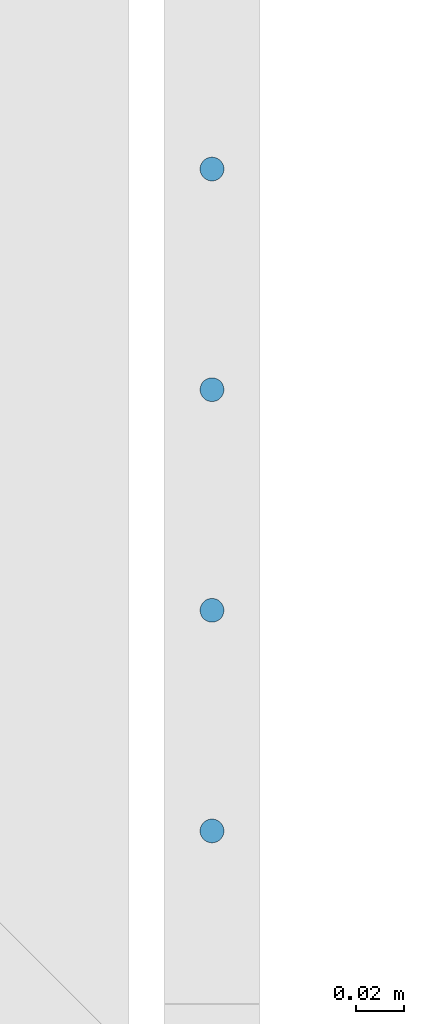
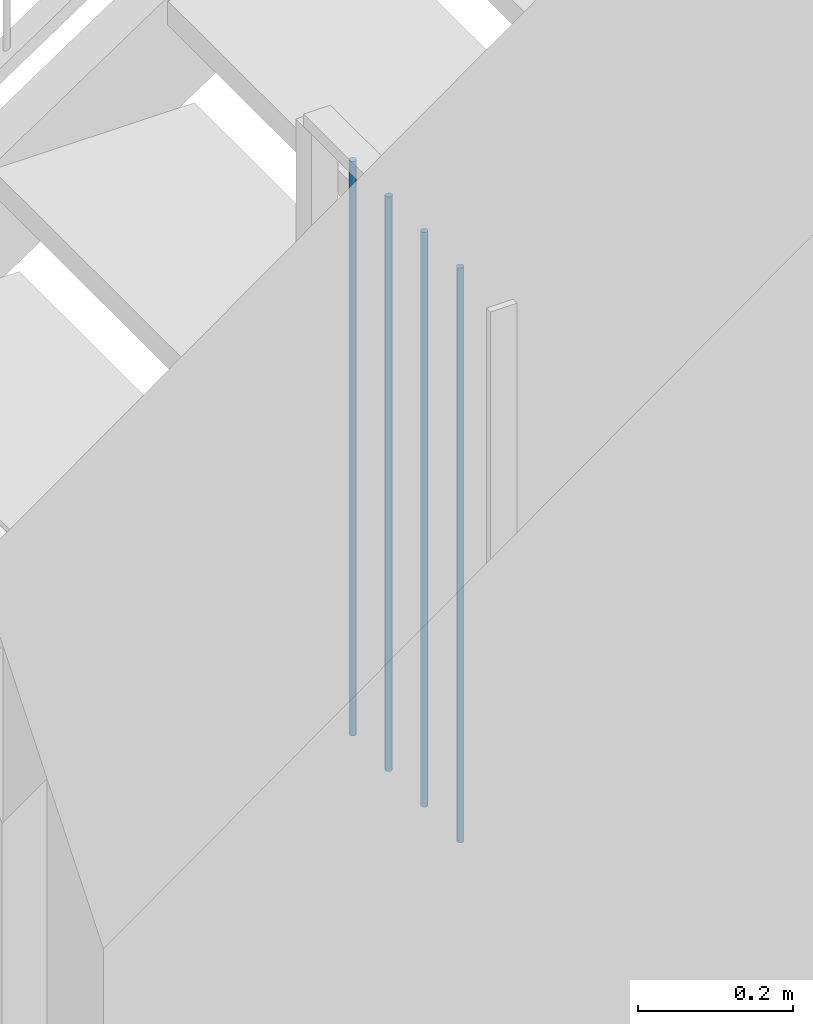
# One storey, part 4 of 117: 4 members, 1 element without a shape of its own.
"""IFC2X3 building model written with IfcOpenShell, lengths in millimetres."""

from ifc_helpers import new_model, entity, si_unit, converted_unit, derived_unit, money_unit, direction, frame, origin_with_axes, place, context, subcontext, project, spatial, faceted_brep, source, transform, mapped, material, type_object, type_shapes, element, aggregate, save


model = new_model("IFC2X3")

# Units and contexts
model_context = context("Model", 3, precision=0.01, world=origin_with_axes(), true_north=direction((0.0, 1.0)))
body_context = subcontext(model_context, "Body", "Model", "MODEL_VIEW")
ifc_project = project(units=[si_unit("LENGTHUNIT", "METRE", prefix="MILLI"), si_unit("AREAUNIT", "SQUARE_METRE"), si_unit("VOLUMEUNIT", "CUBIC_METRE"), converted_unit("PLANEANGLEUNIT", "DEGREE", entity("IfcPlaneAngleMeasure", 0.0174532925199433), si_unit("PLANEANGLEUNIT", "RADIAN"), dimensions=[0, 0, 0, 0, 0, 0, 0]), money_unit("EUR"), converted_unit("TIMEUNIT", "Year", entity("IfcTimeMeasure", 31557600.0), si_unit("TIMEUNIT", "SECOND"), dimensions=[0, 0, 1, 0, 0, 0, 0]), si_unit("MASSUNIT", "GRAM", prefix="KILO"), si_unit("THERMODYNAMICTEMPERATUREUNIT", "DEGREE_CELSIUS"), si_unit("LUMINOUSINTENSITYUNIT", "LUMEN"), si_unit("ENERGYUNIT", "JOULE", prefix="MEGA"), derived_unit("THERMALCONDUCTANCEUNIT", [(si_unit("POWERUNIT", "WATT"), 1), (si_unit("LENGTHUNIT", "METRE"), -1), (si_unit("THERMODYNAMICTEMPERATUREUNIT", "KELVIN"), -1)]), derived_unit("SPECIFICHEATCAPACITYUNIT", [(si_unit("ENERGYUNIT", "JOULE"), 1), (si_unit("MASSUNIT", "GRAM", prefix="KILO"), -1), (si_unit("THERMODYNAMICTEMPERATUREUNIT", "KELVIN"), -1)]), derived_unit("MASSDENSITYUNIT", [(si_unit("MASSUNIT", "GRAM", prefix="KILO"), 1), (si_unit("VOLUMEUNIT", "CUBIC_METRE"), -1)])], contexts=[model_context])

# Site, building, storey
site_placement = place(None, origin_with_axes())
site = spatial("IfcSite", under=ifc_project, at=site_placement, Name="Site", CompositionType="ELEMENT")
building_placement = place(site_placement, origin_with_axes())
building = spatial("IfcBuilding", under=site, at=building_placement, Name="Naam gebouw", CompositionType="ELEMENT")
storey_placement = place(building_placement, frame((0.0, 0.0, 4150.0), z_axis=(0.0, 0.0, 1.0), x_axis=(1.0, 0.0, 0.0)))
storey = spatial("IfcBuildingStorey", under=building, at=storey_placement, Name="1e verdieping N", CompositionType="ELEMENT", Elevation=4150.0)

# Railing, members
railing_type = type_object("IfcRailingType", Name="Railing Type", PredefinedType="NOTDEFINED")
railing_placement = place(storey_placement, frame((56209.65277777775, 21185.9124251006, 0.0), z_axis=(0.0, 0.0, 1.0), x_axis=(1.0, 0.0, 0.0)))
railing = element("IfcRailing", 1, at=railing_placement, inside=storey, type_object=railing_type, Name="_Reling-x", PredefinedType="NOTDEFINED")
ifc_material = material(Name="Metaal - Staal C")
member_type = type_object("IfcMemberType", Name="IfcMember", PredefinedType="MEMBER")
shared_shape = source(origin_with_axes(), body_context, "Body", "Brep", [
    faceted_brep([(0.0, -5.0, 0.0), (0.8682408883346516, -4.92403876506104, 0.0), (0.868240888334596, -4.92403876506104, 907.5000000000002), (0.0, -5.0, 907.5000000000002), (-0.868240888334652, -4.92403876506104, 0.0), (-1.710100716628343, -4.698463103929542, 0.0), (-2.500000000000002, -4.330127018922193, 0.0), (-3.213938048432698, -3.830222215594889, 0.0), (-3.830222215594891, -3.213938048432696, 0.0), (-4.330127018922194, -2.5, 0.0), (-4.698463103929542, -1.710100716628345, 0.0), (-4.924038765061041, -0.86824088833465, 0.0), (-5.0, 0.0, 0.0), (-4.92403876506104, 0.8682408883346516, 0.0), (-4.698463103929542, 1.710100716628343, 0.0), (-4.330127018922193, 2.500000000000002, 0.0), (-3.83022221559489, 3.213938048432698, 0.0), (-3.213938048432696, 3.83022221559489, 0.0), (-2.5, 4.330127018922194, 0.0), (-1.710100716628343, 4.698463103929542, 0.0), (-0.8682408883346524, 4.92403876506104, 0.0), (0.0, 5.0, 0.0), (0.8682408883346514, 4.92403876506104, 0.0), (1.710100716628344, 4.698463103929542, 0.0), (2.5, 4.330127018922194, 0.0), (3.213938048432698, 3.83022221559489, 0.0), (3.83022221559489, 3.213938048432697, 0.0), (4.330127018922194, 2.499999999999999, 0.0), (4.698463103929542, 1.710100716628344, 0.0), (4.92403876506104, 0.8682408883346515, 0.0), (5.0, 0.0, 0.0), (4.92403876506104, -0.8682408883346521, 0.0), (4.698463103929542, -1.710100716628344, 0.0), (4.330127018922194, -2.5, 0.0), (3.83022221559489, -3.213938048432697, 0.0), (3.213938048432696, -3.83022221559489, 0.0), (2.5, -4.330127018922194, 0.0), (1.710100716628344, -4.698463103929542, 0.0), (1.710100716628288, -4.698463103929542, 907.5000000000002), (2.499999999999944, -4.330127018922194, 907.5000000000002), (3.213938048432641, -3.83022221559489, 907.5000000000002), (3.830222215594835, -3.213938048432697, 907.5000000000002), (4.330127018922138, -2.5, 907.5000000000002), (4.698463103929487, -1.710100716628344, 907.5000000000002), (4.924038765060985, -0.8682408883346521, 907.5000000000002), (4.999999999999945, 0.0, 907.5000000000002), (4.924038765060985, 0.8682408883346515, 907.5000000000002), (4.698463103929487, 1.710100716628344, 907.5000000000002), (4.330127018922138, 2.499999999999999, 907.5000000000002), (3.830222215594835, 3.213938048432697, 907.5000000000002), (3.213938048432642, 3.83022221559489, 907.5000000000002), (2.499999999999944, 4.330127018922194, 907.5000000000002), (1.710100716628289, 4.698463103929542, 907.5000000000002), (0.8682408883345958, 4.92403876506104, 907.5000000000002), (0.0, 5.0, 907.5000000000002), (-0.868240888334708, 4.92403876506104, 907.5000000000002), (-1.710100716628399, 4.698463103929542, 907.5000000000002), (-2.500000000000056, 4.330127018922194, 907.5000000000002), (-3.213938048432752, 3.83022221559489, 907.5000000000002), (-3.830222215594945, 3.213938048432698, 907.5000000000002), (-4.330127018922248, 2.500000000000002, 907.5000000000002), (-4.698463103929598, 1.710100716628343, 907.5000000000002), (-4.924038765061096, 0.8682408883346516, 907.5000000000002), (-5.000000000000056, 0.0, 907.5000000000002), (-4.924038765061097, -0.86824088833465, 907.5000000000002), (-4.698463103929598, -1.710100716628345, 907.5000000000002), (-4.330127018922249, -2.5, 907.5000000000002), (-3.830222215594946, -3.213938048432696, 907.5000000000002), (-3.213938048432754, -3.830222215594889, 907.5000000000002), (-2.500000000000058, -4.330127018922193, 907.5000000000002), (-1.710100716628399, -4.698463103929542, 907.5000000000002), (-0.8682408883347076, -4.92403876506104, 907.5000000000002)], [[[0, 1, 2, 3]], [[0, 4, 5, 6, 7, 8, 9, 10, 11, 12, 13, 14, 15, 16, 17, 18, 19, 20, 21, 22, 23, 24, 25, 26, 27, 28, 29, 30, 31, 32, 33, 34, 35, 36, 37, 1]], [[1, 37, 38, 2]], [[3, 2, 38, 39, 40, 41, 42, 43, 44, 45, 46, 47, 48, 49, 50, 51, 52, 53, 54, 55, 56, 57, 58, 59, 60, 61, 62, 63, 64, 65, 66, 67, 68, 69, 70, 71]], [[4, 0, 3, 71]], [[5, 4, 71, 70]], [[6, 5, 70, 69]], [[7, 6, 69, 68]], [[8, 7, 68, 67]], [[9, 8, 67, 66]], [[10, 9, 66, 65]], [[11, 10, 65, 64]], [[12, 11, 64, 63]], [[13, 12, 63, 62]], [[14, 13, 62, 61]], [[15, 14, 61, 60]], [[16, 15, 60, 59]], [[17, 16, 59, 58]], [[18, 17, 58, 57]], [[19, 18, 57, 56]], [[20, 19, 56, 55]], [[21, 20, 55, 54]], [[22, 21, 54, 53]], [[23, 22, 53, 52]], [[24, 23, 52, 51]], [[25, 24, 51, 50]], [[26, 25, 50, 49]], [[27, 26, 49, 48]], [[28, 27, 48, 47]], [[29, 28, 47, 46]], [[30, 29, 46, 45]], [[31, 30, 45, 44]], [[32, 31, 44, 43]], [[33, 32, 43, 42]], [[34, 33, 42, 41]], [[35, 34, 41, 40]], [[36, 35, 40, 39]], [[37, 36, 39, 38]]]),
])
type_shapes(member_type, [shared_shape])
member_1_placement = place(railing_placement, frame((24.99999999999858, -334.7729050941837, 69.9999999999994), z_axis=(0.0, 0.0, 1.0), x_axis=(1.0, 0.0, 0.0)))
member_1 = element("IfcMember", 2, at=member_1_placement, type_object=member_type, material=ifc_material, Name="_Spijlen-x", ObjectType="MEMBER", context=body_context, shape_type="MappedRepresentation", body=[
    mapped(shared_shape, transform((0.0, 0.0, 0.0))),
])
member_2_placement = place(railing_placement, frame((24.99999999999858, -149.5458101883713, 69.9999999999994), z_axis=(0.0, 0.0, 1.0), x_axis=(1.0, 0.0, 0.0)))
member_2 = element("IfcMember", 3, at=member_2_placement, type_object=member_type, material=ifc_material, Name="_Spijlen-x", ObjectType="MEMBER", context=body_context, shape_type="MappedRepresentation", body=[
    mapped(shared_shape, transform((0.0, 0.0, 0.0))),
])
member_3_placement = place(railing_placement, frame((24.99999999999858, -242.1593576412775, 69.9999999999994), z_axis=(0.0, 0.0, 1.0), x_axis=(1.0, 0.0, 0.0)))
member_3 = element("IfcMember", 4, at=member_3_placement, type_object=member_type, material=ifc_material, Name="_Spijlen-x", ObjectType="MEMBER", context=body_context, shape_type="MappedRepresentation", body=[
    mapped(shared_shape, transform((0.0, 0.0, 0.0))),
])
member_4_placement = place(railing_placement, frame((24.99999999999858, -427.3864525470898, 69.9999999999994), z_axis=(0.0, 0.0, 1.0), x_axis=(1.0, 0.0, 0.0)))
member_4 = element("IfcMember", 5, at=member_4_placement, type_object=member_type, material=ifc_material, Name="_Spijlen-x", ObjectType="MEMBER", context=body_context, shape_type="MappedRepresentation", body=[
    mapped(shared_shape, transform((0.0, 0.0, 0.0))),
])
aggregate(railing, [member_1, member_2, member_3, member_4])

save(model, "model.ifc")
